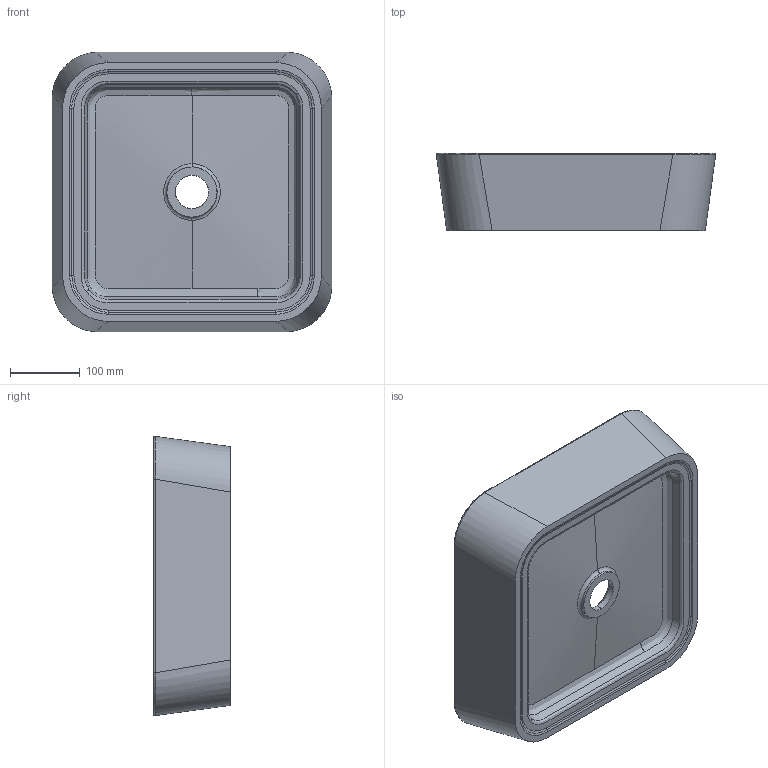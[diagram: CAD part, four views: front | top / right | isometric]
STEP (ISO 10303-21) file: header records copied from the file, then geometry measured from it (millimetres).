
FILE_DESCRIPTION (( 'STEP AP203' ), '1' );
FILE_NAME ('LP040.STEP', '2022-02-10T11:41:28', ( '' ), ( '' ), 'SwSTEP 2.0', 'SolidWorks 2021', '' );
FILE_SCHEMA (( 'CONFIG_CONTROL_DESIGN' ));
Length unit declared in the file: millimetre
Products named in the file (1): LP040
Bounding box: 399.19 x 110 x 399.19 mm (x, y, z)
Volume: 3510886.4 mm3; surface area: 540607.3 mm2
Topology: 1 solids, 1 shells, 87 faces, 247 edges, 163 vertices
Faces by surface type: bspline 67, cylinder 12, plane 8
Entity records: 25743 total; most frequent: CARTESIAN_POINT 23994, ORIENTED_EDGE 492, EDGE_CURVE 246, B_SPLINE_CURVE_WITH_KNOTS 186, VERTEX_POINT 163, DIRECTION 126, EDGE_LOOP 91, ADVANCED_FACE 87
